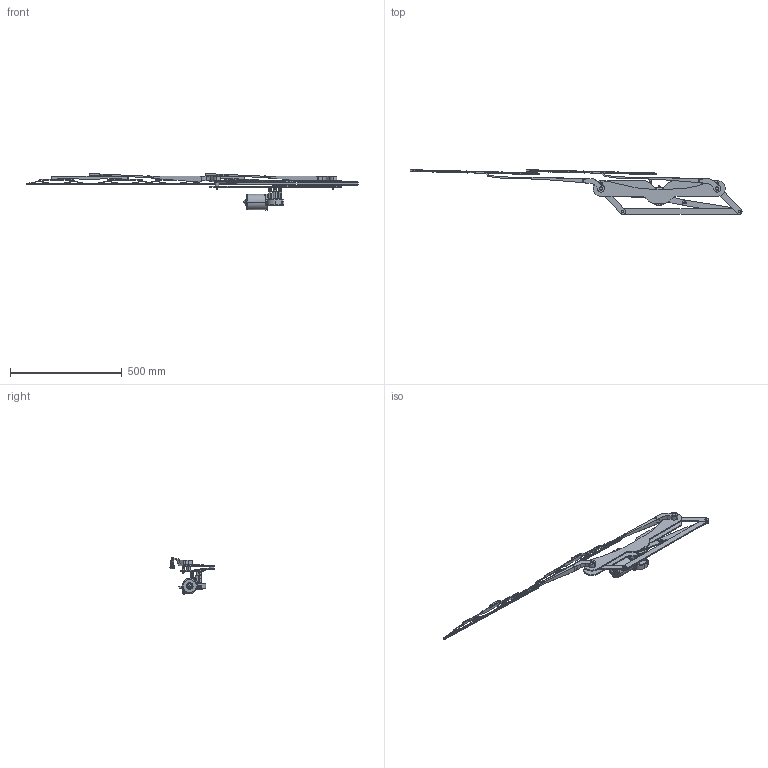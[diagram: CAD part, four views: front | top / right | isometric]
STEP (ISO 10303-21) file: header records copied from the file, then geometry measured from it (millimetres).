
FILE_DESCRIPTION (( 'STEP AP214' ), '1' );
FILE_NAME ('Wiper Assembly.STEP', '2022-04-16T06:15:40', ( '' ), ( '' ), 'SwSTEP 2.0', 'SolidWorks 2021', '' );
FILE_SCHEMA (( 'AUTOMOTIVE_DESIGN' ));
Length unit declared in the file: millimetre
Products named in the file (14): Holder; Link 2; Link 1; Makermotor; parallel pin unhardened_iso.step; flat head screw_am_B18.6.7M - M6 x 1.0 x 8 Type I Cross Recessed FHMS --8N; Link 4; Link 3; parallel pin unhardened_iso - 10.step; Holder_Copy of Default; hexagonal_spacer_MF_M3_H10_HEX5.5_FTD6_MTL6; Wiper; parallel pin unhardened_iso - 15.step; Wiper Assembly
Assembly tree (25 placements, depth 2):
  Wiper Assembly
    Wiper  x2
    Makermotor
    Holder_Copy of Default
    Link 1  x2
    Link 2
    Link 3
    Link 4
    hexagonal_spacer_MF_M3_H10_HEX5.5_FTD6_MTL6  x5
    Holder
    parallel pin unhardened_iso - 10.step  x2
    parallel pin unhardened_iso - 15.step
    parallel pin unhardened_iso.step  x2
    flat head screw_am_B18.6.7M - M6 x 1.0 x 8 Type I Cross Recessed FHMS --8N  x5
Bounding box: 1483.16 x 200.29 x 161 mm (x, y, z)
Volume: 1311157.3 mm3; surface area: 440515.1 mm2
Topology: 56 solids, 56 shells, 1707 faces, 4229 edges, 2616 vertices
Faces by surface type: plane 855, bspline 385, cylinder 267, cone 90, torus 75, sphere 35
Entity records: 36930 total; most frequent: CARTESIAN_POINT 10518, ORIENTED_EDGE 5170, DIRECTION 4952, EDGE_CURVE 2585, AXIS2_PLACEMENT_3D 1770, VERTEX_POINT 1616, VECTOR 1412, LINE 1412
